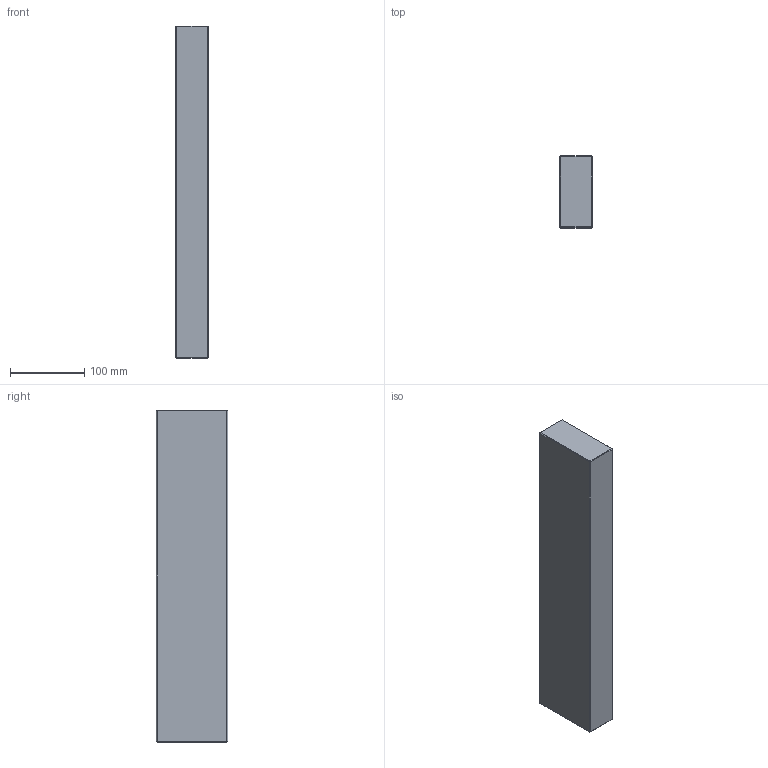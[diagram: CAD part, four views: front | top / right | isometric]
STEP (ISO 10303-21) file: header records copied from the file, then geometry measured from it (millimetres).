
FILE_DESCRIPTION (( 'STEP AP214' ), '1' );
FILE_NAME ('ESP-P-296X446x96.STEP', '2020-04-08T10:54:24', ( 'August' ), ( '' ), 'SwSTEP 2.0', 'SolidWorks 2018', '' );
FILE_SCHEMA (( 'AUTOMOTIVE_DESIGN' ));
Length unit declared in the file: millimetre
Products named in the file (1): ESP-P-296X446x96
Bounding box: 43 x 96 x 446 mm (x, y, z)
Volume: 1839923.3 mm3; surface area: 130870.2 mm2
Topology: 1 solids, 1 shells, 26 faces, 48 edges, 24 vertices
Faces by surface type: plane 26
Entity records: 634 total; most frequent: DIRECTION 102, CARTESIAN_POINT 99, ORIENTED_EDGE 96, EDGE_CURVE 48, VECTOR 48, LINE 48, AXIS2_PLACEMENT_3D 27, FACE_OUTER_BOUND 26
